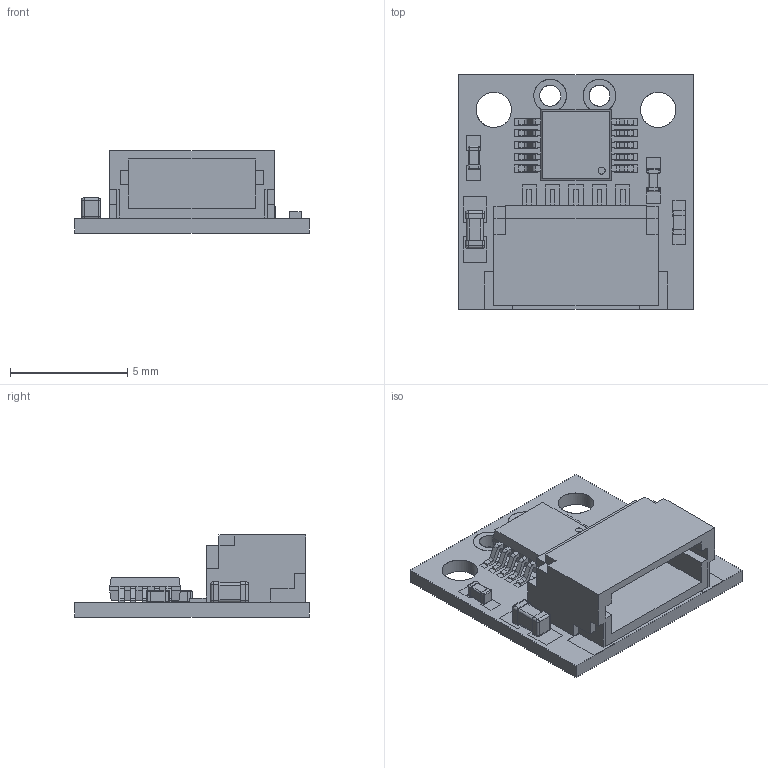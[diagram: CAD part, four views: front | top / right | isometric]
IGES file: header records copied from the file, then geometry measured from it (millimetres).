
Global section: file name: Filename.iges; native system: Open CASCADE 7.4; preprocessor: Open CASCADE IGES processor 7.4; date: 20200728.144314; units: millimetre
Bounding box: 10 x 10 x 3.5 mm (x, y, z)
Surface area: 760.2 mm2 (no closed solid volume)
Topology: 0 solids, 0 shells, 793 faces, 4104 edges, 5816 vertices
Faces by surface type: plane 617, revolution 176
